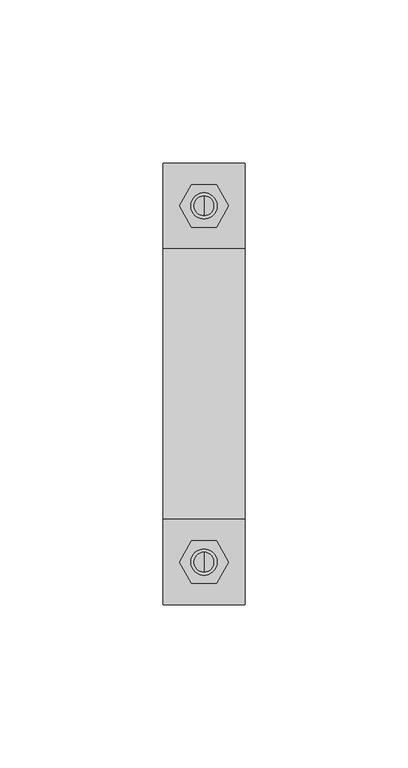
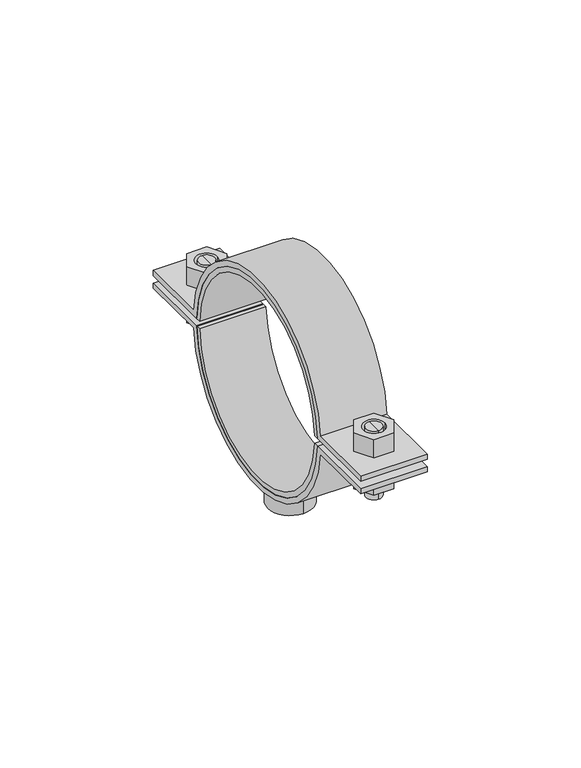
"""IFC4 building model written with IfcOpenShell, lengths in millimetres: valve geometry, Superfix DG2 Clamp Extra + : Superfix DG2 Clamp Extra +."""

from ifc_helpers import new_model, si_unit, point, frame, frame_2d, origin, origin_2d, place, context, project, spatial, polyline, circle_curve, trimmed, segment, composite_curve, outline, extrude, source, transform, mapped, element, save
from ifc_brep_helpers import plane_surface, cylinder_surface, advanced_brep


def valve_6ed2164d(model_context):
    return source(origin(), model_context, "Body", "SolidModel", [
        advanced_brep(
        [(0.0, 57.5, 333.9), (0.0, 51.5, 333.9), (0.0, 51.5, 348.5), (0.0, 57.5, 348.5), (0.0, 54.5, 333.9)],
        [
            (0, 1, circle_curve(frame((0.0, 54.5, 333.9), z_axis=(0.0, 0.0, 1.0), x_axis=(0.0, 1.0, 0.0)), 3.0)),
            (1, 2),
            (2, 3, circle_curve(frame((0.0, 54.5, 348.5), z_axis=(0.0, 0.0, -1.0), x_axis=(0.0, 1.0, 0.0)), 3.0)),
            (3, 0),
            (1, 0, circle_curve(frame((0.0, 54.5, 333.9), z_axis=(0.0, 0.0, 1.0), x_axis=(0.0, 1.0, 0.0)), 3.0)),
            (3, 2, circle_curve(frame((0.0, 54.5, 348.5), z_axis=(0.0, 0.0, -1.0), x_axis=(0.0, 1.0, 0.0)), 3.0)),
            (0, 4),
            (4, 1),
        ],
        [
            cylinder_surface(frame((0.0, 54.5, 348.2806094), z_axis=(0.0, 0.0, 1.0), x_axis=(0.0, 1.0, 0.0)), 3.0),
            plane_surface(frame((0.0, 54.5, 333.9), z_axis=(0.0, 0.0, -1.0), x_axis=(0.0, 1.0, 0.0))),
            plane_surface(frame((13.75, -67.5, 348.5), z_axis=(0.0, 0.0, 1.0), x_axis=(-1.0, 0.0, 0.0))),
        ],
        [
            (0, [[1, 2, 3, 4]]),
            (0, [[5, -4, 6, -2]]),
            (1, [[-1, 7, 8]]),
            (1, [[-5, -8, -7]]),
            (2, [[-3, -6]]),
        ],
    ),
        advanced_brep(
        [(0.0, 51.5, 361.1), (0.0, 57.5, 361.1), (0.0, 57.5, 351.5), (0.0, 51.5, 351.5), (0.0, 54.5, 361.1)],
        [
            (0, 1, circle_curve(frame((0.0, 54.5, 361.1), z_axis=(0.0, 0.0, -1.0), x_axis=(0.0, 1.0, 0.0)), 3.0)),
            (1, 2),
            (2, 3, circle_curve(frame((0.0, 54.5, 351.5), z_axis=(0.0, 0.0, 1.0), x_axis=(0.0, 1.0, 0.0)), 3.0)),
            (3, 0),
            (1, 0, circle_curve(frame((0.0, 54.5, 361.1), z_axis=(0.0, 0.0, -1.0), x_axis=(0.0, 1.0, 0.0)), 3.0)),
            (3, 2, circle_curve(frame((0.0, 54.5, 351.5), z_axis=(0.0, 0.0, 1.0), x_axis=(0.0, 1.0, 0.0)), 3.0)),
            (0, 4),
            (4, 1),
        ],
        [
            cylinder_surface(frame((0.0, 54.5, 348.2806094), z_axis=(0.0, 0.0, 1.0), x_axis=(0.0, 1.0, 0.0)), 3.0),
            plane_surface(frame((0.0, 54.5, 361.1), z_axis=(0.0, 0.0, 1.0), x_axis=(0.0, 1.0, 0.0))),
            plane_surface(frame((13.75, 67.5, 351.5), z_axis=(0.0, 0.0, -1.0), x_axis=(-1.0, 0.0, 0.0))),
        ],
        [
            (0, [[1, 2, 3, 4]]),
            (0, [[5, -4, 6, -2]]),
            (1, [[-1, 7, 8]]),
            (1, [[-5, -8, -7]]),
            (2, [[-3, -6]]),
        ],
    ),
        advanced_brep(
        [(0.0, -57.5, 361.1), (0.0, -51.5, 361.1), (0.0, -51.5, 351.5), (0.0, -57.5, 351.5), (0.0, -54.5, 361.1)],
        [
            (0, 1, circle_curve(frame((0.0, -54.5, 361.1), z_axis=(0.0, 0.0, -1.0), x_axis=(0.0, -1.0, 0.0)), 3.0)),
            (1, 2),
            (2, 3, circle_curve(frame((0.0, -54.5, 351.5), z_axis=(0.0, 0.0, 1.0), x_axis=(0.0, -1.0, 0.0)), 3.0)),
            (3, 0),
            (1, 0, circle_curve(frame((0.0, -54.5, 361.1), z_axis=(0.0, 0.0, -1.0), x_axis=(0.0, -1.0, 0.0)), 3.0)),
            (3, 2, circle_curve(frame((0.0, -54.5, 351.5), z_axis=(0.0, 0.0, 1.0), x_axis=(0.0, -1.0, 0.0)), 3.0)),
            (0, 4),
            (4, 1),
        ],
        [
            cylinder_surface(frame((0.0, -54.5, 348.2806094), z_axis=(0.0, 0.0, -1.0), x_axis=(0.0, -1.0, 0.0)), 3.0),
            plane_surface(frame((0.0, -54.5, 361.1), z_axis=(0.0, 0.0, 1.0), x_axis=(0.0, -1.0, 0.0))),
            plane_surface(frame((13.75, 67.5, 351.5), z_axis=(0.0, 0.0, -1.0), x_axis=(-1.0, 0.0, 0.0))),
        ],
        [
            (0, [[1, 2, 3, 4]]),
            (0, [[5, -4, 6, -2]]),
            (1, [[-1, 7, 8]]),
            (1, [[-5, -8, -7]]),
            (2, [[-3, -6]]),
        ],
    ),
        advanced_brep(
        [(0.0, -51.5, 333.9), (0.0, -57.5, 333.9), (0.0, -57.5, 348.5), (0.0, -51.5, 348.5), (0.0, -54.5, 333.9)],
        [
            (0, 1, circle_curve(frame((0.0, -54.5, 333.9), z_axis=(0.0, 0.0, 1.0), x_axis=(0.0, -1.0, 0.0)), 3.0)),
            (1, 2),
            (2, 3, circle_curve(frame((0.0, -54.5, 348.5), z_axis=(0.0, 0.0, -1.0), x_axis=(0.0, -1.0, 0.0)), 3.0)),
            (3, 0),
            (1, 0, circle_curve(frame((0.0, -54.5, 333.9), z_axis=(0.0, 0.0, 1.0), x_axis=(0.0, -1.0, 0.0)), 3.0)),
            (3, 2, circle_curve(frame((0.0, -54.5, 348.5), z_axis=(0.0, 0.0, -1.0), x_axis=(0.0, -1.0, 0.0)), 3.0)),
            (0, 4),
            (4, 1),
        ],
        [
            cylinder_surface(frame((0.0, -54.5, 348.2806094), z_axis=(0.0, 0.0, -1.0), x_axis=(0.0, -1.0, 0.0)), 3.0),
            plane_surface(frame((0.0, -54.5, 333.9), z_axis=(0.0, 0.0, -1.0), x_axis=(0.0, -1.0, 0.0))),
            plane_surface(frame((13.75, -67.5, 348.5), z_axis=(0.0, 0.0, 1.0), x_axis=(-1.0, 0.0, 0.0))),
        ],
        [
            (0, [[1, 2, 3, 4]]),
            (0, [[5, -4, 6, -2]]),
            (1, [[-1, 7, 8]]),
            (1, [[-5, -8, -7]]),
            (2, [[-3, -6]]),
        ],
    ),
        extrude(outline(composite_curve([segment(trimmed(circle_curve(frame_2d((0.0, 350.0)), 39.5), [point((-39.4715087, 348.5))], [point((39.4715087, 348.5))], True, "CARTESIAN"), True, "CONTINUOUS"), segment(polyline([(39.4715087, 348.5), (67.5, 348.5), (67.5, 346.5), (41.3521463, 346.5)]), True, "CONTINUOUS"), segment(trimmed(circle_curve(frame_2d((0.0, 350.0)), 41.5), [point((41.3521463, 346.5))], [point((-41.3521463, 346.5))], False, "CARTESIAN"), True, "CONTINUOUS"), segment(polyline([(-41.3521463, 346.5), (-67.5, 346.5), (-67.5, 348.5), (-39.4715087, 348.5)]), True, "CONTINUOUS")], self_intersect=False)), frame((-12.5, 0.0, 0.0), z_axis=(1.0, 0.0, 0.0), x_axis=(0.0, 1.0, 0.0)), (0.0, 0.0, 1.0), 25.0),
        extrude(outline(composite_curve([segment(trimmed(circle_curve(frame_2d((0.0, 350.0)), 39.5), [point((39.4715087, 351.5))], [point((-39.4715087, 351.5))], True, "CARTESIAN"), True, "CONTINUOUS"), segment(polyline([(-39.4715087, 351.5), (-67.5, 351.5), (-67.5, 353.5), (-41.3521463, 353.5)]), True, "CONTINUOUS"), segment(trimmed(circle_curve(frame_2d((0.0, 350.0)), 41.5), [point((-41.3521463, 353.5))], [point((41.3521463, 353.5))], False, "CARTESIAN"), True, "CONTINUOUS"), segment(polyline([(41.3521463, 353.5), (67.5, 353.5), (67.5, 351.5), (39.4715087, 351.5)]), True, "CONTINUOUS")], self_intersect=False)), frame((-12.5, 0.0, 0.0), z_axis=(1.0, 0.0, 0.0), x_axis=(0.0, 1.0, 0.0)), (0.0, 0.0, 1.0), 25.0),
        extrude(outline(polyline([(7.5055535, -54.5), (3.7527767, -61.0), (-3.7527767, -61.0), (-7.5055535, -54.5), (-3.7527767, -48.0), (3.7527767, -48.0), (7.5055535, -54.5)]), holes=[composite_curve([segment(trimmed(circle_curve(frame_2d((0.0, -54.5)), 4.0), [point((4.0, -54.5))], [point((-4.0, -54.5))], True, "CARTESIAN"), True, "CONTINUOUS"), segment(trimmed(circle_curve(frame_2d((0.0, -54.5)), 4.0), [point((-4.0, -54.5))], [point((4.0, -54.5))], True, "CARTESIAN"), True, "CONTINUOUS")], self_intersect=False)]), frame((0.0, 0.0, 353.5), z_axis=(0.0, 0.0, 1.0), x_axis=(1.0, 0.0, 0.0)), (0.0, 0.0, 1.0), 7.6),
        extrude(outline(polyline([(7.5055535, 54.5), (3.7527767, 48.0), (-3.7527767, 48.0), (-7.5055535, 54.5), (-3.7527767, 61.0), (3.7527767, 61.0), (7.5055535, 54.5)]), holes=[composite_curve([segment(trimmed(circle_curve(frame_2d((0.0, 54.5)), 4.0), [point((4.0, 54.5))], [point((-4.0, 54.5))], True, "CARTESIAN"), True, "CONTINUOUS"), segment(trimmed(circle_curve(frame_2d((0.0, 54.5)), 4.0), [point((-4.0, 54.5))], [point((4.0, 54.5))], True, "CARTESIAN"), True, "CONTINUOUS")], self_intersect=False)]), frame((0.0, 0.0, 353.5), z_axis=(0.0, 0.0, 1.0), x_axis=(1.0, 0.0, 0.0)), (0.0, 0.0, 1.0), 7.6),
        extrude(outline(polyline([(7.5055535, -54.5), (3.7527767, -61.0), (-3.7527767, -61.0), (-7.5055535, -54.5), (-3.7527767, -48.0), (3.7527767, -48.0), (7.5055535, -54.5)]), holes=[composite_curve([segment(trimmed(circle_curve(frame_2d((0.0, -54.5)), 4.0), [point((4.0, -54.5))], [point((-4.0, -54.5))], True, "CARTESIAN"), True, "CONTINUOUS"), segment(trimmed(circle_curve(frame_2d((0.0, -54.5)), 4.0), [point((-4.0, -54.5))], [point((4.0, -54.5))], True, "CARTESIAN"), True, "CONTINUOUS")], self_intersect=False)]), frame((0.0, 0.0, 338.9), z_axis=(0.0, 0.0, 1.0), x_axis=(1.0, 0.0, 0.0)), (0.0, 0.0, 1.0), 7.6),
        extrude(outline(polyline([(7.5055535, 54.5), (3.7527767, 48.0), (-3.7527767, 48.0), (-7.5055535, 54.5), (-3.7527767, 61.0), (3.7527767, 61.0), (7.5055535, 54.5)]), holes=[composite_curve([segment(trimmed(circle_curve(frame_2d((0.0, 54.5)), 4.0), [point((4.0, 54.5))], [point((-4.0, 54.5))], True, "CARTESIAN"), True, "CONTINUOUS"), segment(trimmed(circle_curve(frame_2d((0.0, 54.5)), 4.0), [point((-4.0, 54.5))], [point((4.0, 54.5))], True, "CARTESIAN"), True, "CONTINUOUS")], self_intersect=False)]), frame((0.0, 0.0, 338.9), z_axis=(0.0, 0.0, 1.0), x_axis=(1.0, 0.0, 0.0)), (0.0, 0.0, 1.0), 7.6),
        extrude(outline(composite_curve([segment(trimmed(circle_curve(origin_2d(), 8.5), [point((0.0, 8.5))], [point((0.0, -8.5))], False, "CARTESIAN"), True, "CONTINUOUS"), segment(trimmed(circle_curve(origin_2d(), 8.5), [point((0.0, -8.5))], [point((0.0, 8.5))], False, "CARTESIAN"), True, "CONTINUOUS")], self_intersect=False), holes=[composite_curve([segment(trimmed(circle_curve(origin_2d(), 5.0), [point((0.0, 5.0))], [point((0.0, -5.0))], True, "CARTESIAN"), True, "CONTINUOUS"), segment(trimmed(circle_curve(origin_2d(), 5.0), [point((0.0, -5.0))], [point((0.0, 5.0))], True, "CARTESIAN"), True, "CONTINUOUS")], self_intersect=False)]), frame((0.0, 0.0, 298.5), z_axis=(0.0, 0.0, 1.0), x_axis=(1.0, 0.0, 0.0)), (0.0, 0.0, 1.0), 12.0),
        extrude(outline(composite_curve([segment(trimmed(circle_curve(frame_2d((0.0, 350.0)), 37.5), [point((37.469988, 351.5))], [point((-37.469988, 351.5))], True, "CARTESIAN"), True, "CONTINUOUS"), segment(polyline([(-37.469988, 351.5), (-39.4715087, 351.5)]), True, "CONTINUOUS"), segment(trimmed(circle_curve(frame_2d((0.0, 350.0)), 39.5), [point((-39.4715087, 351.5))], [point((39.4715087, 351.5))], False, "CARTESIAN"), True, "CONTINUOUS"), segment(polyline([(39.4715087, 351.5), (37.469988, 351.5)]), True, "CONTINUOUS")], self_intersect=False)), frame((-12.5, 0.0, 0.0), z_axis=(1.0, 0.0, 0.0), x_axis=(0.0, 1.0, 0.0)), (0.0, 0.0, 1.0), 25.0),
        extrude(outline(composite_curve([segment(polyline([(37.469988, 348.5), (39.4715087, 348.5)]), True, "CONTINUOUS"), segment(trimmed(circle_curve(frame_2d((0.0, 350.0)), 39.5), [point((39.4715087, 348.5))], [point((-39.4715087, 348.5))], False, "CARTESIAN"), True, "CONTINUOUS"), segment(polyline([(-39.4715087, 348.5), (-37.469988, 348.5)]), True, "CONTINUOUS"), segment(trimmed(circle_curve(frame_2d((0.0, 350.0)), 37.5), [point((-37.469988, 348.5))], [point((37.469988, 348.5))], True, "CARTESIAN"), True, "CONTINUOUS")], self_intersect=False)), frame((-12.5, 0.0, 0.0), z_axis=(1.0, 0.0, 0.0), x_axis=(0.0, 1.0, 0.0)), (0.0, 0.0, 1.0), 25.0),
    ])


if __name__ == "__main__":
    model = new_model("IFC4")
    model_context = context("Model", 3, world=origin())
    ifc_project = project(units=[si_unit("LENGTHUNIT", "METRE", prefix="MILLI")], contexts=[model_context])
    site = spatial("IfcSite", under=ifc_project)
    building = spatial("IfcBuilding", under=site)
    placement = place(None, origin())
    valve_shape = valve_6ed2164d(model_context)
    element("IfcValve", 1, ObjectType="Superfix DG2 Clamp Extra + : Superfix DG2 Clamp Extra +", at=placement, inside=building, context=model_context, shape_type="MappedRepresentation", body=[
        mapped(valve_shape, transform((0.0, 0.0, 0.0), x_axis=(1.0, 0.0, 0.0), y_axis=(0.0, 1.0, 0.0), z_axis=(0.0, 0.0, 1.0))),
    ])
    save(model, "model.ifc")
